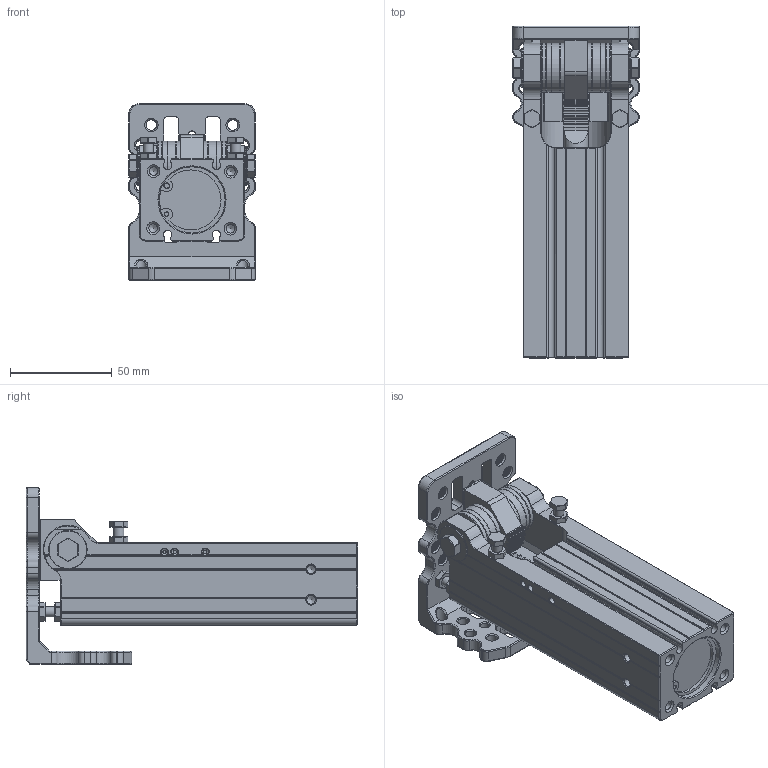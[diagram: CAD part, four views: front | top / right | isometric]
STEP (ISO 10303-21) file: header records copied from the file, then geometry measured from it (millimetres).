
FILE_DESCRIPTION(/* description */ (''),/* implementation_level */ '2;1');
FILE_NAME(/* name */ 'DHR3C-32M30ZG-LB(2022).stp',/* time_stamp */ '2022-11-02T17:06:54+08:00',/* author */ (''),/* organization */ (''),/* preprocessor_version */ 'ST-DEVELOPER v14',/* originating_system */ 'SIEMENS PLM Software NX 8.0',/* authorisation */ '');
FILE_SCHEMA (('AP203_CONFIGURATION_CONTROLLED_3D_DESIGN_OF_MECHANICAL_PARTS_AND_ASSEMBLIES_MIM_LF { 1 0 10303 403 2 1 2}'));
Products named in the file (1): Admi1648FD98p31w
Bounding box: 62 x 163 x 86.8 mm (x, y, z)
Volume: 269403 mm3; surface area: 95158.9 mm2
Topology: 51 solids, 54 shells, 2058 faces, 5483 edges, 3506 vertices
Faces by surface type: plane 1362, cylinder 387, cone 159, torus 99, bspline 28, sphere 22, extrusion 1
Full cylindrical faces by diameter (mm): 2 x2, 2.5 x4, 2.583 x2, 3 x4, 3.3 x3, 4 x7, 4.2 x31, 4.5 x2, 5 x16, 5.2 x8, 8 x2, 8.5 x2, 10 x12, 12 x1, 14 x3, 19 x2, 24 x6, 24.002 x2, 32.3 x2, 32.5 x5, 34 x2
Entity records: 81251 total; most frequent: CARTESIAN_POINT 32251, ORIENTED_EDGE 9994, DIRECTION 9753, EDGE_CURVE 4997, VECTOR 3693, LINE 3692, VERTEX_POINT 3349, AXIS2_PLACEMENT_3D 3030
